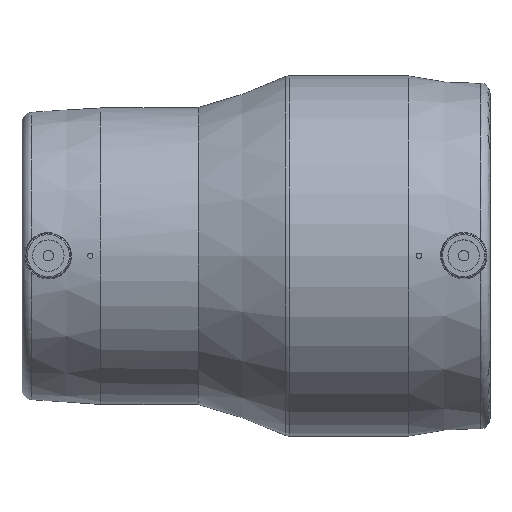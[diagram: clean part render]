
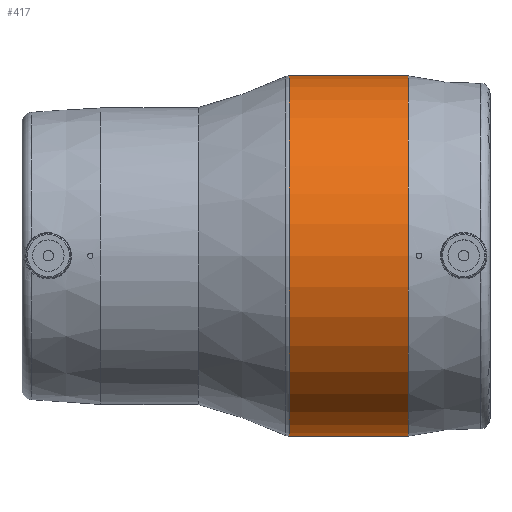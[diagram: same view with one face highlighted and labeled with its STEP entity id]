
A CAD part, top view. The second image highlights one B-rep face of the part: STEP entity #417.
In plain terms, the highlighted cylindrical face has radius 68.5 mm (diameter 137 mm), a full revolution.
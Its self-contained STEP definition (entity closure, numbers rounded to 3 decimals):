
#56=CYLINDRICAL_SURFACE('',#472,68.5);
#70=CIRCLE('',#464,68.5);
#76=CIRCLE('',#473,68.5);
#111=ORIENTED_EDGE('',*,*,#200,.T.);
#112=ORIENTED_EDGE('',*,*,#190,.T.);
#190=EDGE_CURVE('',#235,#235,#70,.T.);
#200=EDGE_CURVE('',#244,#244,#76,.T.);
#235=VERTEX_POINT('',#685);
#244=VERTEX_POINT('',#725);
#285=EDGE_LOOP('',(#111));
#286=EDGE_LOOP('',(#112));
#350=FACE_BOUND('',#285,.T.);
#351=FACE_BOUND('',#286,.T.);
#417=ADVANCED_FACE('',(#350,#351),#56,.T.);
#464=AXIS2_PLACEMENT_3D('',#684,#532,#533);
#472=AXIS2_PLACEMENT_3D('',#723,#550,#551);
#473=AXIS2_PLACEMENT_3D('',#724,#552,#553);
#532=DIRECTION('',(-1.,0.,0.));
#533=DIRECTION('',(0.,0.,1.));
#550=DIRECTION('',(-1.,0.,0.));
#551=DIRECTION('',(0.,0.,1.));
#552=DIRECTION('',(1.,0.,0.));
#553=DIRECTION('',(0.,0.,-1.));
#684=CARTESIAN_POINT('',(63.,0.,0.));
#685=CARTESIAN_POINT('',(63.,0.,68.5));
#723=CARTESIAN_POINT('',(-60.,0.,0.));
#724=CARTESIAN_POINT('',(17.685,0.,0.));
#725=CARTESIAN_POINT('',(17.685,0.,-68.5));
